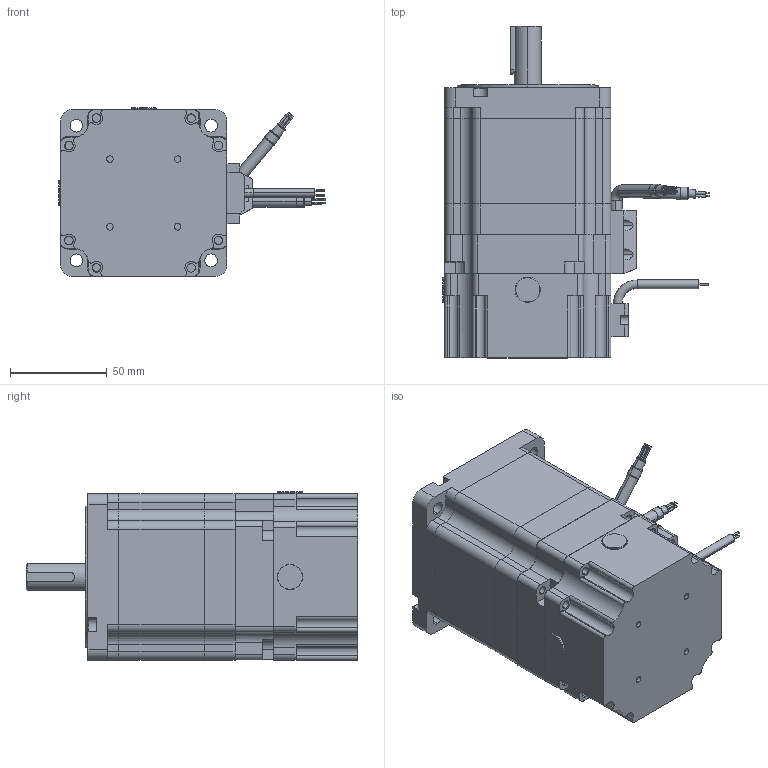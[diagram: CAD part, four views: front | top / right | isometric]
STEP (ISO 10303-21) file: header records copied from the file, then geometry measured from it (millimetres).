
FILE_DESCRIPTION (( 'STEP AP214' ), '1' );
FILE_NAME ('86HS276-6004EB-XXX.STEP', '2023-11-01T10:01:56', ( 'MM' ), ( 'Microsoft' ), 'SwSTEP 2.0', 'SolidWorks 2020', '' );
FILE_SCHEMA (( 'AUTOMOTIVE_DESIGN' ));
Length unit declared in the file: millimetre
Products named in the file (1): 86HS276-6004EB-XXX
Bounding box: 137.87 x 171.5 x 87 mm (x, y, z)
Volume: 772320.5 mm3; surface area: 123340.5 mm2
Topology: 6 solids, 6 shells, 560 faces, 1473 edges, 966 vertices
Faces by surface type: cylinder 286, plane 231, torus 24, cone 12, bspline 7
Entity records: 19096 total; most frequent: CARTESIAN_POINT 3323, DIRECTION 3229, ORIENTED_EDGE 2946, EDGE_CURVE 1473, AXIS2_PLACEMENT_3D 1220, VERTEX_POINT 966, LINE 789, VECTOR 789
